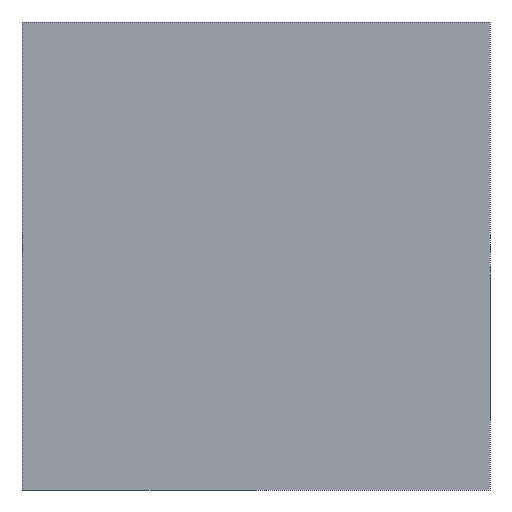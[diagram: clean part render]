
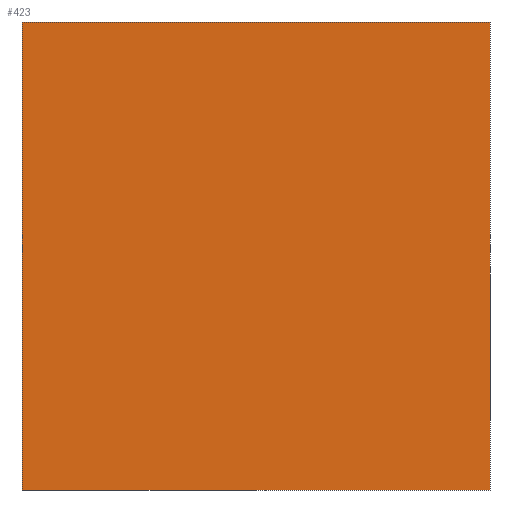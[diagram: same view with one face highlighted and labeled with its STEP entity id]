
A CAD part, left-side view. The second image highlights one B-rep face of the part: STEP entity #423.
In plain terms, the highlighted planar face has unit normal (-1, 0, 0).
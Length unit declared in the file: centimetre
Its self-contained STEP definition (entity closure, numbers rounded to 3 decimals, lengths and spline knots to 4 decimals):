
#34 = EDGE_LOOP ( 'NONE', ( #43, #261, #471, #265 ) ) ;
#43 = ORIENTED_EDGE ( 'NONE', *, *, #395, .T. ) ;
#47 = FACE_OUTER_BOUND ( 'NONE', #34, .T. ) ;
#85 = CARTESIAN_POINT ( 'NONE',  ( 0., 1000., 0. ) ) ;
#129 = CARTESIAN_POINT ( 'NONE',  ( 0., 1000., 1000. ) ) ;
#131 = VECTOR ( 'NONE', #342, 100. ) ;
#132 = CARTESIAN_POINT ( 'NONE',  ( 0., 1000., 1000. ) ) ;
#158 = CARTESIAN_POINT ( 'NONE',  ( 0., 1000., 0. ) ) ;
#188 = VECTOR ( 'NONE', #326, 100. ) ;
#195 = VECTOR ( 'NONE', #229, 100. ) ;
#213 = VERTEX_POINT ( 'NONE', #453 ) ;
#223 = DIRECTION ( 'NONE',  ( 0., 0., -1. ) ) ;
#229 = DIRECTION ( 'NONE',  ( 0., 0., -1. ) ) ;
#240 = CARTESIAN_POINT ( 'NONE',  ( 0., 0., 1000. ) ) ;
#261 = ORIENTED_EDGE ( 'NONE', *, *, #481, .F. ) ;
#265 = ORIENTED_EDGE ( 'NONE', *, *, #318, .T. ) ;
#266 = LINE ( 'NONE', #420, #195 ) ;
#275 = LINE ( 'NONE', #132, #188 ) ;
#302 = AXIS2_PLACEMENT_3D ( 'NONE', #456, #409, #223 ) ;
#303 = LINE ( 'NONE', #85, #131 ) ;
#310 = CARTESIAN_POINT ( 'NONE',  ( 0., 1000., 1000. ) ) ;
#318 = EDGE_CURVE ( 'NONE', #333, #396, #429, .T. ) ;
#322 = VERTEX_POINT ( 'NONE', #240 ) ;
#326 = DIRECTION ( 'NONE',  ( 0., -1., 0. ) ) ;
#333 = VERTEX_POINT ( 'NONE', #129 ) ;
#337 = PLANE ( 'NONE',  #302 ) ;
#342 = DIRECTION ( 'NONE',  ( 0., -1., 0. ) ) ;
#389 = DIRECTION ( 'NONE',  ( 0., 0., -1. ) ) ;
#395 = EDGE_CURVE ( 'NONE', #396, #213, #303, .T. ) ;
#396 = VERTEX_POINT ( 'NONE', #158 ) ;
#403 = EDGE_CURVE ( 'NONE', #333, #322, #275, .T. ) ;
#409 = DIRECTION ( 'NONE',  ( 1., 0., 0. ) ) ;
#420 = CARTESIAN_POINT ( 'NONE',  ( 0., 0., 1000. ) ) ;
#423 = ADVANCED_FACE ( 'NONE', ( #47 ), #337, .F. ) ;
#429 = LINE ( 'NONE', #310, #478 ) ;
#453 = CARTESIAN_POINT ( 'NONE',  ( 0., 0., 0. ) ) ;
#456 = CARTESIAN_POINT ( 'NONE',  ( 0., 1000., 1000. ) ) ;
#471 = ORIENTED_EDGE ( 'NONE', *, *, #403, .F. ) ;
#478 = VECTOR ( 'NONE', #389, 100. ) ;
#481 = EDGE_CURVE ( 'NONE', #322, #213, #266, .T. ) ;
